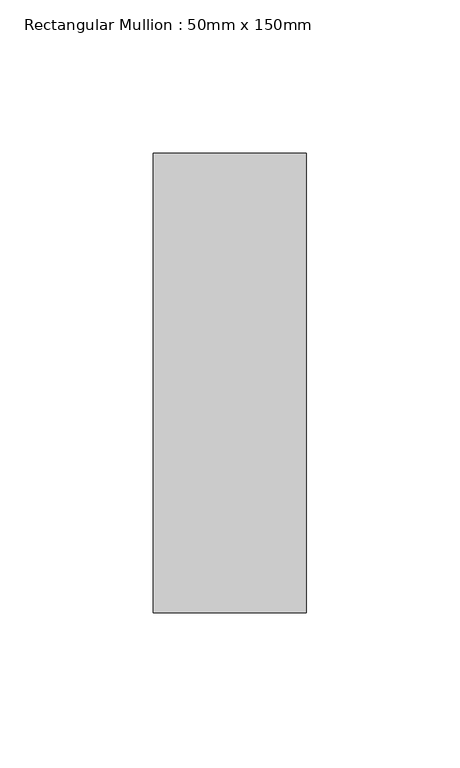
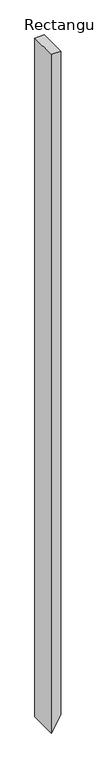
"""IFC4 building model written with IfcOpenShell, lengths in millimetres: member geometry, Rectangular Mullion : 50mm x 150mm."""

from ifc_helpers import new_model, si_unit, frame, origin, place, context, project, spatial, polyline, outline, extrude, source, transform, mapped, element, save


def rectangular_mullion_50mm_x_150mm_79d6063e(model_context):
    return source(origin(), model_context, "Body", "SweptSolid", [
        extrude(outline(polyline([(0.0, 25.0), (0.0, -25.0), (-3808.2110221, -25.0), (-3721.6084818, 25.0), (0.0, 25.0)])), frame((0.0, -75.0, 0.0), z_axis=(0.0, 1.0, 0.0), x_axis=(0.0, 0.0, 1.0)), (0.0, 0.0, 1.0), 150.0),
    ])


if __name__ == "__main__":
    model = new_model("IFC4")
    model_context = context("Model", 3, world=origin())
    ifc_project = project(units=[si_unit("LENGTHUNIT", "METRE", prefix="MILLI")], contexts=[model_context])
    site = spatial("IfcSite", under=ifc_project)
    building = spatial("IfcBuilding", under=site)
    placement = place(None, origin())
    rectangular_mullion_50mm_x_150mm_shape = rectangular_mullion_50mm_x_150mm_79d6063e(model_context)
    element("IfcMember", 1, ObjectType="Rectangular Mullion : 50mm x 150mm", at=placement, inside=building, context=model_context, shape_type="MappedRepresentation", body=[
        mapped(rectangular_mullion_50mm_x_150mm_shape, transform((0.0, 0.0, 0.0), x_axis=(1.0, 0.0, 0.0), y_axis=(0.0, 1.0, 0.0), z_axis=(0.0, 0.0, 1.0))),
    ])
    save(model, "model.ifc")
